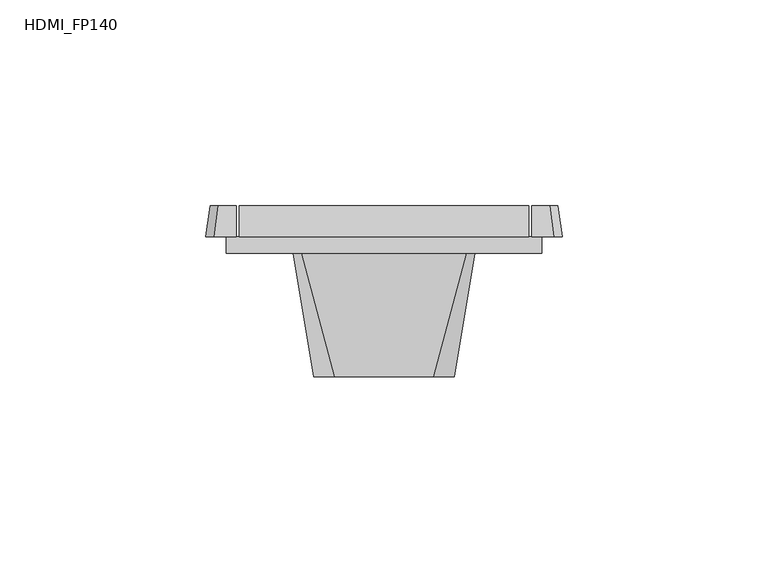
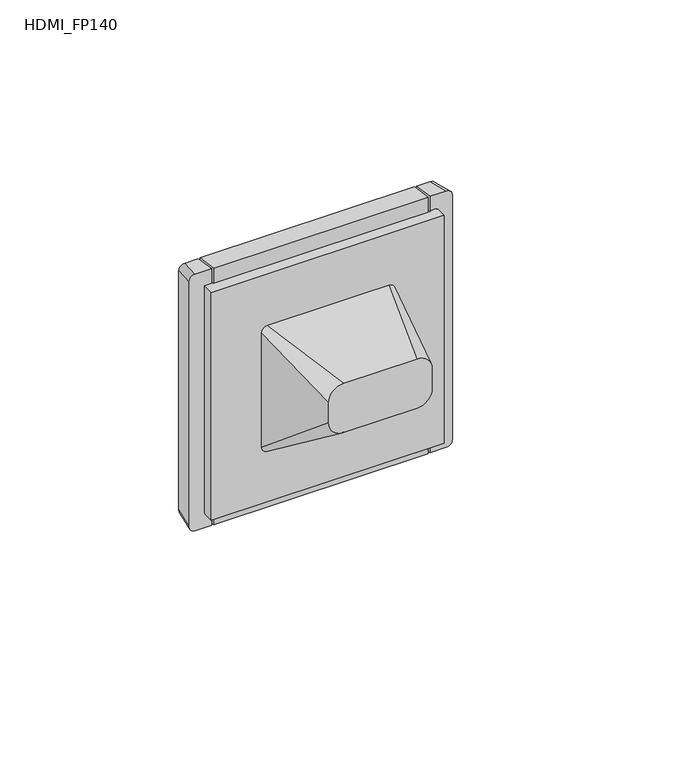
"""IFC4 building model written with IfcOpenShell, lengths in millimetres: proxy geometry, IEK_Forte&Piano_Розекта мультимедийная : HDMI_FP140."""

from ifc_helpers import new_model, si_unit, point, frame, origin, place, context, project, spatial, polyline, circle_curve, trimmed, outline, extrude, faceted_brep, source, transform, mapped, element, save
from ifc_brep_helpers import plane_surface, extruded_surface, spline_surface, advanced_brep


def hdmi_fp140_ccfc384a(model_context):
    return source(origin(), model_context, "Body", "SolidModel", [
        extrude(outline(polyline([(22.7, -22.7), (-22.7, -22.7), (-22.7, 22.7), (22.7, 22.7), (22.7, -22.7)]), holes=[polyline([(1.7401485, 7.5), (-1.7401485, 7.5), (-1.7401485, 5.796619), (-3.2058849, 4.3308826), (-3.2058849, -4.3308826), (-1.7401485, -5.796619), (-1.7401485, -7.5), (1.7401485, -7.5), (1.7401485, 7.5)])]), frame((0.0, 4.0, 0.0), z_axis=(0.0, 1.0, 0.0), x_axis=(0.0, 0.0, 1.0)), (0.0, 0.0, 1.0), 7.5),
        extrude(outline(polyline([(-3.1058849, -4.2894612), (-3.1058849, 4.2894612), (-1.6401485, 5.7551977), (-1.6401485, 7.4), (1.6401485, 7.4), (1.6401485, -7.4), (-1.6401485, -7.4), (-1.6401485, -5.7551977), (-3.1058849, -4.2894612)]), holes=[polyline([(-2.8058849, -4.1651972), (-1.3401485, -5.6309336), (-1.3401485, -7.1), (1.3401485, -7.1), (1.3401485, 7.1), (-1.3401485, 7.1), (-1.3401485, 5.6309336), (-2.8058849, 4.1651972), (-2.8058849, -4.1651972)])]), frame((0.0, 4.0, 0.0), z_axis=(0.0, 1.0, 0.0), x_axis=(0.0, 0.0, 1.0)), (0.0, 0.0, 1.0), 6.8883636),
        extrude(outline(polyline([(-5.8848007, 10.8883636), (5.8596861, 10.8883636), (5.8596861, 4.0), (-5.8848007, 4.0), (-5.8848007, 10.8883636)])), frame((0.0, 0.0, -0.5407319), z_axis=(0.0, 0.0, 1.0), x_axis=(1.0, 0.0, 0.0)), (0.0, 0.0, 1.0), 0.9188569),
        faceted_brep([(35.2, 11.5, 43.5), (35.2, 4.0, 44.5), (35.2, 4.0, -44.5), (35.2, 11.5, -43.5), (-35.2, 11.5, 43.5), (-35.2, 11.5, -43.5), (-35.2, 4.0, -44.5), (-35.2, 4.0, 44.5), (-23.5, 4.0, 23.5), (23.5, 4.0, 23.5), (23.5, 4.0, -23.5), (-23.5, 4.0, -23.5), (23.5, 11.5, 23.5), (-23.5, 11.5, 23.5), (-23.5, 11.5, -23.5), (23.5, 11.5, -23.5)], [[[0, 1, 2, 3]], [[4, 5, 6, 7]], [[1, 0, 4, 7]], [[2, 1, 7, 6], [8, 9, 10, 11]], [[3, 2, 6, 5]], [[0, 3, 5, 4], [12, 13, 14, 15]], [[8, 13, 12, 9]], [[9, 12, 15, 10]], [[10, 15, 14, 11]], [[13, 8, 11, 14]]]),
        advanced_brep(
        [(35.8576533, 11.5, 43.5), (35.8576533, 11.5, -43.5), (35.8576533, 4.0, -44.5), (35.8576533, 4.0, -39.5), (35.8576533, 4.0, 39.5), (35.8576533, 4.0, 44.5), (-35.8576533, 11.5, -43.5), (-35.8576533, 11.5, 43.5), (-35.8576533, 4.0, 44.5), (-35.8576533, 4.0, 39.5), (-35.8576533, 4.0, -39.5), (-35.8576533, 4.0, -44.5), (40.25, 11.5, 43.5), (42.25, 11.5, 41.5), (42.25, 11.5, -41.5), (40.25, 11.5, -43.5), (-40.25, 11.5, -43.5), (-42.25, 11.5, -41.5), (-42.25, 11.5, 41.5), (-40.25, 11.5, 43.5), (-41.25, 4.0, 44.5), (-43.25, 4.0, 42.5), (-43.25, 4.0, -42.5), (-41.25, 4.0, -44.5), (-38.25, 4.0, -39.5), (-38.25, 4.0, 39.5), (41.25, 4.0, -44.5), (43.25, 4.0, -42.5), (43.25, 4.0, 42.5), (41.25, 4.0, 44.5), (38.25, 4.0, 39.5), (38.25, 4.0, -39.5), (-38.25, 0.0, 39.5), (-38.25, 0.0, -39.5), (38.25, 0.0, -39.5), (38.25, 0.0, 39.5)],
        [
            (0, 1),
            (1, 2),
            (2, 3),
            (3, 4),
            (4, 5),
            (5, 0),
            (6, 7),
            (7, 8),
            (8, 9),
            (9, 10),
            (10, 11),
            (11, 6),
            (12, 13, circle_curve(frame((40.25, 11.5, 41.5), z_axis=(0.0, 1.0, 0.0), x_axis=(-1.0, 0.0, 0.0)), 2.0)),
            (13, 14),
            (14, 15, circle_curve(frame((40.25, 11.5, -41.5), z_axis=(0.0, 1.0, 0.0), x_axis=(-1.0, 0.0, 0.0)), 2.0)),
            (15, 1),
            (0, 12),
            (16, 17, circle_curve(frame((-40.25, 11.5, -41.5), z_axis=(0.0, 1.0, 0.0), x_axis=(-1.0, 0.0, 0.0)), 2.0)),
            (17, 18),
            (18, 19, circle_curve(frame((-40.25, 11.5, 41.5), z_axis=(0.0, 1.0, 0.0), x_axis=(-1.0, 0.0, 0.0)), 2.0)),
            (19, 7),
            (6, 16),
            (20, 21, circle_curve(frame((-41.25, 4.0, 42.5), z_axis=(0.0, -1.0, 0.0), x_axis=(-1.0, 0.0, 0.0)), 2.0)),
            (21, 22),
            (22, 23, circle_curve(frame((-41.25, 4.0, -42.5), z_axis=(0.0, -1.0, 0.0), x_axis=(-1.0, 0.0, 0.0)), 2.0)),
            (23, 11),
            (10, 24),
            (24, 25),
            (25, 9),
            (8, 20),
            (26, 27, circle_curve(frame((41.25, 4.0, -42.5), z_axis=(0.0, -1.0, 0.0), x_axis=(-1.0, 0.0, 0.0)), 2.0)),
            (27, 28),
            (28, 29, circle_curve(frame((41.25, 4.0, 42.5), z_axis=(0.0, -1.0, 0.0), x_axis=(-1.0, 0.0, 0.0)), 2.0)),
            (29, 5),
            (4, 30),
            (30, 31),
            (31, 3),
            (2, 26),
            (29, 12),
            (19, 20),
            (28, 13),
            (27, 14),
            (26, 15),
            (23, 16),
            (22, 17),
            (21, 18),
            (3, 10),
            (9, 4),
            (32, 33),
            (33, 34),
            (34, 35),
            (35, 32),
            (32, 25),
            (24, 33),
            (31, 34),
            (30, 35),
        ],
        [
            plane_surface(frame((35.8576533, 11.5, 44.5), z_axis=(-1.0, 0.0, 0.0), x_axis=(0.0, -1.0, 0.0))),
            plane_surface(frame((-35.8576533, 11.5, -44.5), z_axis=(1.0, 0.0, 0.0), x_axis=(0.0, -1.0, 0.0))),
            plane_surface(frame((0.0, 11.5, 0.0), z_axis=(0.0, 1.0, 0.0), x_axis=(1.0, 0.0, 0.0))),
            plane_surface(frame((0.0, 4.0, 0.0), z_axis=(0.0, -1.0, 0.0), x_axis=(1.0, 0.0, 0.0))),
            plane_surface(frame((0.0, 4.0, 44.5), z_axis=(0.0, 0.13216372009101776, 0.9912279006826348), x_axis=(1.0, 0.0, 0.0))),
            extruded_surface(trimmed(circle_curve(frame((41.25, 4.0, 42.5), z_axis=(0.0, 1.0, 0.0), x_axis=(-1.0, 0.0, 0.0)), 2.0), [point((41.25, 4.0, 44.5))], [point((43.25, 4.0, 42.5))], True, "CARTESIAN"), (-1.0, 7.5, -1.0), 7.632168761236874),
            plane_surface(frame((43.25, 4.0, 0.0), z_axis=(0.9912279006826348, 0.13216372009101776, 0.0), x_axis=(0.0, 0.0, -1.0))),
            extruded_surface(trimmed(circle_curve(frame((41.25, 4.0, -42.5), z_axis=(0.0, 1.0, 0.0), x_axis=(-1.0, 0.0, 0.0)), 2.0), [point((43.25, 4.0, -42.5))], [point((41.25, 4.0, -44.5))], True, "CARTESIAN"), (-1.0, 7.5, 1.0), 7.632168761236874),
            plane_surface(frame((0.0, 4.0, -44.5), z_axis=(0.0, 0.13216372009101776, -0.9912279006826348), x_axis=(-1.0, 0.0, 0.0))),
            extruded_surface(trimmed(circle_curve(frame((-41.25, 4.0, -42.5), z_axis=(0.0, 1.0, 0.0), x_axis=(-1.0, 0.0, 0.0)), 2.0), [point((-41.25, 4.0, -44.5))], [point((-43.25, 4.0, -42.5))], True, "CARTESIAN"), (1.0, 7.5, 1.0), 7.632168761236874),
            plane_surface(frame((-43.25, 4.0, 0.0), z_axis=(-0.9912279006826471, 0.13216372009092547, 0.0), x_axis=(0.0, 0.0, 1.0))),
            extruded_surface(trimmed(circle_curve(frame((-41.25, 4.0, 42.5), z_axis=(0.0, 1.0, 0.0), x_axis=(-1.0, 0.0, 0.0)), 2.0), [point((-43.25, 4.0, 42.5))], [point((-41.25, 4.0, 44.5))], True, "CARTESIAN"), (1.0, 7.5, -1.0), 7.632168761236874),
            plane_surface(frame((-38.25, 4.0, 39.5), z_axis=(0.0, 1.0, 0.0), x_axis=(0.0, 0.0, 1.0))),
            plane_surface(frame((-38.25, 0.0, 39.5), z_axis=(0.0, -1.0, 0.0), x_axis=(0.0, 0.0, -1.0))),
            plane_surface(frame((-38.25, 0.0, 39.5), z_axis=(-1.0, 0.0, 0.0), x_axis=(0.0, 1.0, 0.0))),
            plane_surface(frame((-38.25, 0.0, -39.5), z_axis=(0.0, 0.0, -1.0), x_axis=(0.0, 1.0, 0.0))),
            plane_surface(frame((38.25, 0.0, -39.5), z_axis=(1.0, 0.0, 0.0), x_axis=(0.0, 1.0, 0.0))),
            plane_surface(frame((38.25, 0.0, 39.5), z_axis=(0.0, 0.0, 1.0), x_axis=(0.0, 1.0, 0.0))),
        ],
        [
            (0, [[1, 2, 3, 4, 5, 6]]),
            (1, [[7, 8, 9, 10, 11, 12]]),
            (2, [[13, 14, 15, 16, -1, 17]]),
            (2, [[18, 19, 20, 21, -7, 22]]),
            (3, [[23, 24, 25, 26, -11, 27, 28, 29, -9, 30]]),
            (3, [[31, 32, 33, 34, -5, 35, 36, 37, -3, 38]]),
            (4, [[39, -17, -6, -34]]),
            (4, [[40, -30, -8, -21]]),
            (5, [[-13, -39, -33, 41]]),
            (6, [[-14, -41, -32, 42]]),
            (7, [[-15, -42, -31, 43]]),
            (8, [[-43, -38, -2, -16]]),
            (8, [[44, -22, -12, -26]]),
            (9, [[-18, -44, -25, 45]]),
            (10, [[-19, -45, -24, 46]]),
            (11, [[-20, -46, -23, -40]]),
            (12, [[47, -10, 48, -4]]),
            (13, [[49, 50, 51, 52]]),
            (14, [[-49, 53, -28, 54]]),
            (15, [[-50, -54, -27, -47, -37, 55]]),
            (16, [[-51, -55, -36, 56]]),
            (17, [[-52, -56, -35, -48, -29, -53]]),
        ],
    ),
        advanced_brep(
        [(-12.0, -30.0, 17.0), (-17.0, -30.0, 12.0), (-17.0, -30.0, 5.0), (-12.0, -30.0, 0.0), (12.0, -30.0, 0.0), (17.0, -30.0, 5.0), (17.0, -30.0, 12.0), (12.0, -30.0, 17.0), (-20.0, 0.0, 22.0), (20.0, 0.0, 22.0), (22.0, 0.0, 20.0), (22.0, 0.0, -20.0), (20.0, 0.0, -22.0), (-20.0, 0.0, -22.0), (-22.0, 0.0, -20.0), (-22.0, 0.0, 20.0)],
        [
            (0, 1, circle_curve(frame((-12.0, -30.0, 12.0), z_axis=(0.0, -1.0, 0.0), x_axis=(1.0, 0.0, 0.0)), 5.0)),
            (1, 2),
            (2, 3, circle_curve(frame((-12.0, -30.0, 5.0), z_axis=(0.0, -1.0, 0.0), x_axis=(1.0, 0.0, 0.0)), 5.0)),
            (3, 4),
            (4, 5, circle_curve(frame((12.0, -30.0, 5.0), z_axis=(0.0, -1.0, 0.0), x_axis=(1.0, 0.0, 0.0)), 5.0)),
            (5, 6),
            (6, 7, circle_curve(frame((12.0, -30.0, 12.0), z_axis=(0.0, -1.0, 0.0), x_axis=(1.0, 0.0, 0.0)), 5.0)),
            (7, 0),
            (8, 9),
            (9, 10, circle_curve(frame((20.0, 0.0, 20.0), z_axis=(0.0, 1.0, 0.0), x_axis=(1.0, 0.0, 0.0)), 2.0)),
            (10, 11),
            (11, 12, circle_curve(frame((20.0, 0.0, -20.0), z_axis=(0.0, 1.0, 0.0), x_axis=(1.0, 0.0, 0.0)), 2.0)),
            (12, 13),
            (13, 14, circle_curve(frame((-20.0, 0.0, -20.0), z_axis=(0.0, 1.0, 0.0), x_axis=(1.0, 0.0, 0.0)), 2.0)),
            (14, 15),
            (15, 8, circle_curve(frame((-20.0, 0.0, 20.0), z_axis=(0.0, 1.0, 0.0), x_axis=(1.0, 0.0, 0.0)), 2.0)),
            (8, 0),
            (7, 9),
            (6, 10),
            (5, 11),
            (4, 12),
            (3, 13),
            (2, 14),
            (1, 15),
        ],
        [
            plane_surface(frame((0.0, -30.0, 8.5), z_axis=(0.0, -1.0, 0.0), x_axis=(-1.0, 0.0, 0.0))),
            plane_surface(frame((0.0, 0.0, 0.0), z_axis=(0.0, 1.0, 0.0), x_axis=(-1.0, 0.0, 0.0))),
            plane_surface(frame((0.0, 0.0, 22.0), z_axis=(0.0, -0.16439898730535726, 0.9863939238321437), x_axis=(-1.0, 0.0, 0.0))),
            spline_surface(2, 1, [[(22.0, 0.0, 20.0), (17.0, -30.0, 12.0)], [(22.0, 0.0, 22.0), (17.0, -30.0, 17.0)], [(20.0, 0.0, 22.0), (12.0, -30.0, 17.0)]], [3, 3], [2, 2], [0.0, 1.0], [0.0, 1.0], weights=[[1.0, 1.0], [0.7071067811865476, 0.7071067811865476], [1.0, 1.0]]),
            plane_surface(frame((22.0, 0.0, 0.0), z_axis=(0.9863939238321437, -0.1643989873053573, 0.0), x_axis=(0.0, 0.0, 1.0))),
            spline_surface(2, 1, [[(20.0, 0.0, -22.0), (12.0, -30.0, 0.0)], [(22.0, 0.0, -22.0), (17.0, -30.0, 0.0)], [(22.0, 0.0, -20.0), (17.0, -30.0, 5.0)]], [3, 3], [2, 2], [0.0, 1.0], [0.0, 1.0], weights=[[1.0, 1.0], [0.7071067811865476, 0.7071067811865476], [1.0, 1.0]]),
            plane_surface(frame((0.0, 0.0, -22.0), z_axis=(0.0, -0.591363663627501, -0.8064049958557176), x_axis=(1.0, 0.0, 0.0))),
            spline_surface(2, 1, [[(-22.0, 0.0, -20.0), (-17.0, -30.0, 5.0)], [(-22.0, 0.0, -22.0), (-17.0, -30.0, 0.0)], [(-20.0, 0.0, -22.0), (-12.0, -30.0, 0.0)]], [3, 3], [2, 2], [0.0, 1.0], [0.0, 1.0], weights=[[1.0, 1.0], [0.7071067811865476, 0.7071067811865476], [1.0, 1.0]]),
            plane_surface(frame((-22.0, 0.0, 0.0), z_axis=(-0.9863939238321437, -0.1643989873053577, 0.0), x_axis=(0.0, 0.0, -1.0))),
            spline_surface(2, 1, [[(-20.0, 0.0, 22.0), (-12.0, -30.0, 17.0)], [(-22.0, 0.0, 22.0), (-17.0, -30.0, 17.0)], [(-22.0, 0.0, 20.0), (-17.0, -30.0, 12.0)]], [3, 3], [2, 2], [0.0, 1.0], [0.0, 1.0], weights=[[1.0, 1.0], [0.7071067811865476, 0.7071067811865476], [1.0, 1.0]]),
        ],
        [
            (0, [[1, 2, 3, 4, 5, 6, 7, 8]]),
            (1, [[9, 10, 11, 12, 13, 14, 15, 16]]),
            (2, [[-9, 17, -8, 18]]),
            (3, [[-10, -18, -7, 19]]),
            (4, [[-11, -19, -6, 20]]),
            (5, [[-12, -20, -5, 21]]),
            (6, [[-13, -21, -4, 22]]),
            (7, [[-14, -22, -3, 23]]),
            (8, [[-15, -23, -2, 24]]),
            (9, [[-16, -24, -1, -17]]),
        ],
    ),
    ])


if __name__ == "__main__":
    model = new_model("IFC4")
    model_context = context("Model", 3, world=origin())
    ifc_project = project(units=[si_unit("LENGTHUNIT", "METRE", prefix="MILLI")], contexts=[model_context])
    site = spatial("IfcSite", under=ifc_project)
    building = spatial("IfcBuilding", under=site)
    placement = place(None, origin())
    hdmi_fp140_shape = hdmi_fp140_ccfc384a(model_context)
    element("IfcBuildingElementProxy", 1, Name="IEK_Forte&Piano_Розекта мультимедийная : HDMI_FP140", ObjectType="IEK_Forte&Piano_Розекта мультимедийная : HDMI_FP140", at=placement, inside=building, context=model_context, shape_type="MappedRepresentation", body=[
        mapped(hdmi_fp140_shape, transform((0.0, 0.0, 0.0), x_axis=(1.0, 0.0, 0.0), y_axis=(0.0, 1.0, 0.0), z_axis=(0.0, 0.0, 1.0))),
    ])
    save(model, "model.ifc")
